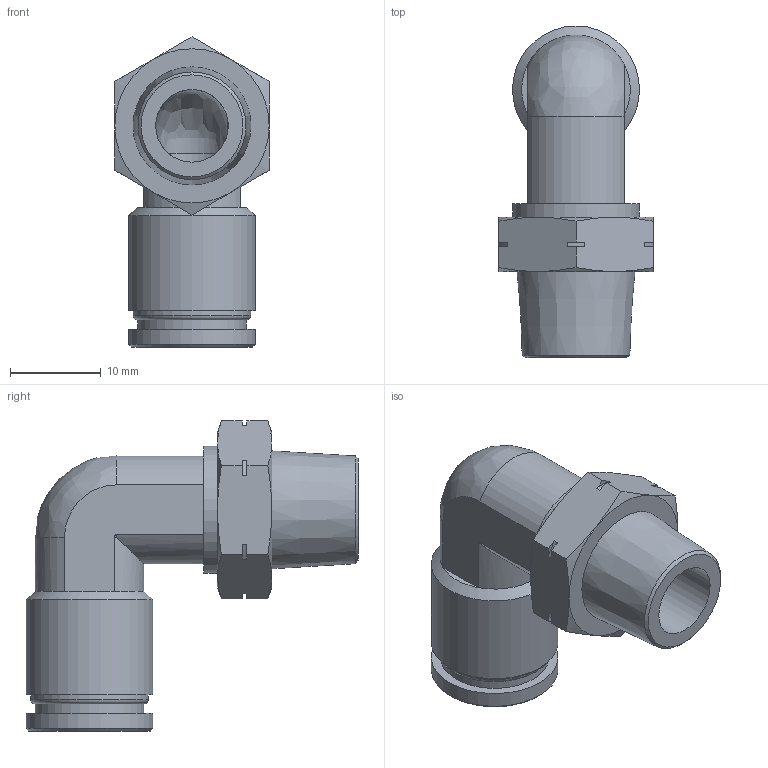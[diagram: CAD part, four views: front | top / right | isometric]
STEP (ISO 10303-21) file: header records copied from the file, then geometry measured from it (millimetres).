
FILE_DESCRIPTION(/* description */ (''),/* implementation_level */ '2;1');
FILE_NAME(/* name */ 'LXH21 0010 N2.stp',/* time_stamp */ '2026-05-01T13:18:00+02:00',/* author */ ('freju'),/* organization */ (''),/* preprocessor_version */ 'ST-DEVELOPER v20.1',/* originating_system */ 'Autodesk Inventor 2026',/* authorisation */ '');
FILE_SCHEMA (('AUTOMOTIVE_DESIGN { 1 0 10303 214 3 1 1 }'));
Length unit declared in the file: millimetre
Products named in the file (1): LXH21 0010 N2
Bounding box: 17 x 36.6 x 34.22 mm (x, y, z)
Volume: 4183.1 mm3; surface area: 4133.4 mm2
Topology: 1 solids, 1 shells, 69 faces, 170 edges, 105 vertices
Faces by surface type: plane 30, cylinder 18, cone 16, bspline 4, torus 1
Full cylindrical faces by diameter (mm): 8 x2, 10 x1, 12 x1, 13 x1, 14 x3
Entity records: 2077 total; most frequent: CARTESIAN_POINT 445, DIRECTION 344, ORIENTED_EDGE 332, EDGE_CURVE 166, AXIS2_PLACEMENT_3D 136, VERTEX_POINT 105, EDGE_LOOP 77, LINE 72
